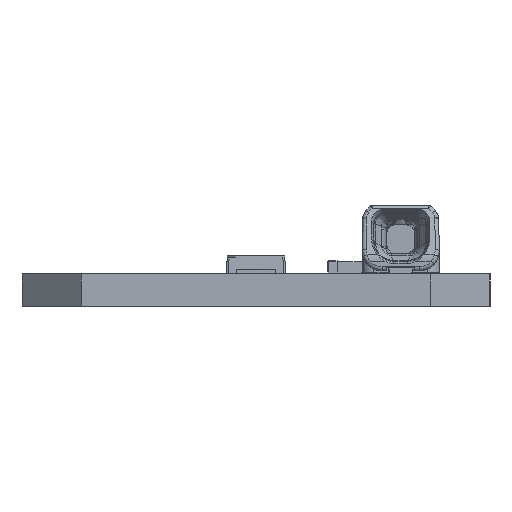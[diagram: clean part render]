
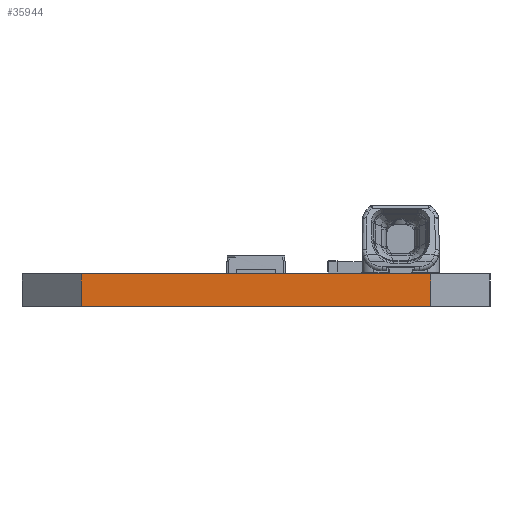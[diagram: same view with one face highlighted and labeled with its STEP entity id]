
A CAD part, left-side view. The second image highlights one B-rep face of the part: STEP entity #35944.
In plain terms, the highlighted planar face has unit normal (-1, 0, 0).
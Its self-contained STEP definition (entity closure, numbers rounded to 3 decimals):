
#795=DIRECTION('',(0.,0.,1.));
#796=VECTOR('',#795,1.65);
#797=CARTESIAN_POINT('',(-69.5,8.8,0.));
#798=LINE('',#797,#796);
#802=DIRECTION('',(0.,-1.,0.));
#803=VECTOR('',#802,17.6);
#804=CARTESIAN_POINT('',(-69.5,8.8,1.65));
#805=LINE('',#804,#803);
#809=DIRECTION('',(0.,0.,1.));
#810=VECTOR('',#809,1.65);
#811=CARTESIAN_POINT('',(-69.5,-8.8,0.));
#812=LINE('',#811,#810);
#923=DIRECTION('',(0.,-1.,0.));
#924=VECTOR('',#923,17.6);
#925=CARTESIAN_POINT('',(-69.5,8.8,0.));
#926=LINE('',#925,#924);
#30684=CARTESIAN_POINT('',(-69.5,-8.8,1.65));
#30685=VERTEX_POINT('',#30684);
#30686=CARTESIAN_POINT('',(-69.5,8.8,1.65));
#30687=VERTEX_POINT('',#30686);
#31063=CARTESIAN_POINT('',(-69.5,8.8,0.));
#31064=VERTEX_POINT('',#31063);
#31065=CARTESIAN_POINT('',(-69.5,-8.8,0.));
#31066=VERTEX_POINT('',#31065);
#35931=CARTESIAN_POINT('',(-69.5,0.,0.825));
#35932=DIRECTION('',(1.,0.,0.));
#35933=DIRECTION('',(0.,0.,1.));
#35934=AXIS2_PLACEMENT_3D('',#35931,#35932,#35933);
#35935=PLANE('',#35934);
#35937=ORIENTED_EDGE('',*,*,#35936,.F.);
#35939=ORIENTED_EDGE('',*,*,#35938,.F.);
#35940=ORIENTED_EDGE('',*,*,#35915,.T.);
#35941=ORIENTED_EDGE('',*,*,#35038,.T.);
#35942=EDGE_LOOP('',(#35937,#35939,#35940,#35941));
#35943=FACE_OUTER_BOUND('',#35942,.F.);
#35038=EDGE_CURVE('',#30687,#30685,#805,.T.);
#35915=EDGE_CURVE('',#31064,#30687,#798,.T.);
#35936=EDGE_CURVE('',#31066,#30685,#812,.T.);
#35938=EDGE_CURVE('',#31064,#31066,#926,.T.);
#35944=ADVANCED_FACE('',(#35943),#35935,.F.);
